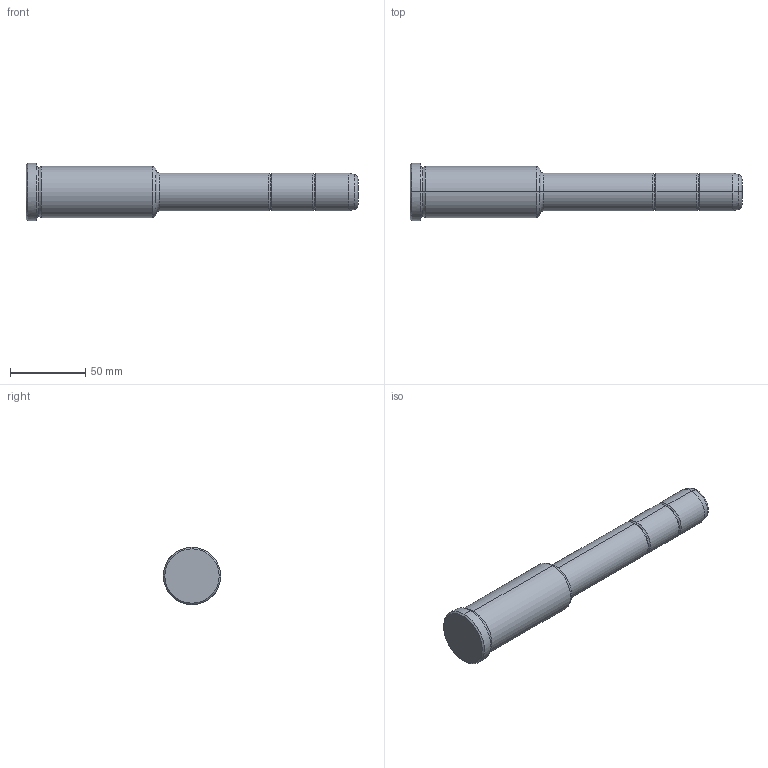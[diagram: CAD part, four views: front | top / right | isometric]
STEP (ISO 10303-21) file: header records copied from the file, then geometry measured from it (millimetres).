
FILE_DESCRIPTION(('CATIA V5 STEP Exchange'),'2;1');
FILE_NAME('C:\Users\Utente\Desktop\IO LAVORO\3D X SITO CF\X SITO\PLASTICA\351\351-25X86X220.stp','2021-09-07T11:24:19+00:00',('none'),('none'),'CATIA Version 5 Release 20 GA (IN-10)','CATIA V5 STEP AP203','none');
FILE_SCHEMA(('CONFIG_CONTROL_DESIGN'));
Length unit declared in the file: millimetre
Products named in the file (1): 351-25X86X220
Bounding box: 220 x 38 x 38 mm (x, y, z)
Volume: 144652.6 mm3; surface area: 21756.6 mm2
Topology: 1 solids, 1 shells, 36 faces, 102 edges, 70 vertices
Faces by surface type: torus 16, cylinder 10, cone 6, plane 4
Entity records: 1292 total; most frequent: CARTESIAN_POINT 321, ORIENTED_EDGE 204, DIRECTION 166, AXIS2_PLACEMENT_3D 115, EDGE_CURVE 102, CIRCLE 78, VERTEX_POINT 70, EDGE_LOOP 38
